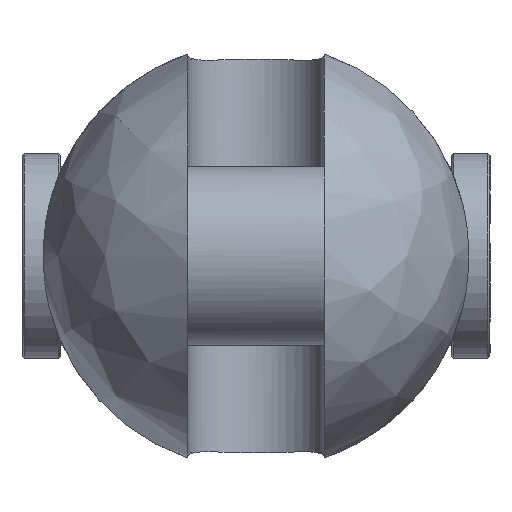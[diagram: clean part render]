
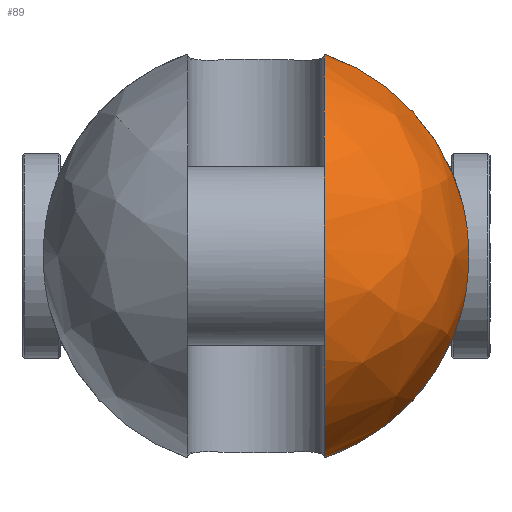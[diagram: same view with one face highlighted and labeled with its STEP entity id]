
A CAD part, left-side view. The second image highlights one B-rep face of the part: STEP entity #89.
In plain terms, the highlighted free-form (B-spline) face has degree [2, 2] with [9, 5] control points.
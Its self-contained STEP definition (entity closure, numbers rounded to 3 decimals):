
#89=ADVANCED_FACE('',(#164),#1306,.T.);
#164=FACE_OUTER_BOUND('',#249,.T.);
#249=EDGE_LOOP('',(#583,#584,#585,#586));
#583=ORIENTED_EDGE('',*,*,#811,.T.);
#584=ORIENTED_EDGE('',*,*,#835,.F.);
#585=ORIENTED_EDGE('',*,*,#847,.T.);
#586=ORIENTED_EDGE('',*,*,#827,.F.);
#811=EDGE_CURVE('',#1192,#1191,#1045,.T.);
#827=EDGE_CURVE('',#1192,#1204,#1055,.T.);
#835=EDGE_CURVE('',#1211,#1191,#1056,.T.);
#847=EDGE_CURVE('',#1211,#1204,#963,.T.);
#963=B_SPLINE_CURVE_WITH_KNOTS('',3,(#3144,#3145,#3146,#3147,#3148,#3149,
#3150,#3151,#3152,#3153,#3154,#3155,#3156,#3157),.UNSPECIFIED.,.F.,.F.,
(4,2,2,2,2,2,4),(0.,1.423,6.959,12.495,18.031,
23.567,24.99),.UNSPECIFIED.);
#1045=(
BOUNDED_CURVE()
B_SPLINE_CURVE(2,(#2920,#2921,#2922,#2923,#2924),.UNSPECIFIED.,.F.,.F.)
B_SPLINE_CURVE_WITH_KNOTS((3,2,3),(-148.82,-74.41,
0.),.UNSPECIFIED.)
CURVE()
GEOMETRIC_REPRESENTATION_ITEM()
RATIONAL_B_SPLINE_CURVE((1.,0.707,1.,0.707,1.))
REPRESENTATION_ITEM('')
);
#1055=(
BOUNDED_CURVE()
B_SPLINE_CURVE(2,(#3014,#3015,#3016),.UNSPECIFIED.,.F.,.F.)
B_SPLINE_CURVE_WITH_KNOTS((3,3),(0.,50.264),.UNSPECIFIED.)
CURVE()
GEOMETRIC_REPRESENTATION_ITEM()
RATIONAL_B_SPLINE_CURVE((1.,0.876,1.))
REPRESENTATION_ITEM('')
);
#1056=(
BOUNDED_CURVE()
B_SPLINE_CURVE(2,(#3071,#3072,#3073),.UNSPECIFIED.,.F.,.F.)
B_SPLINE_CURVE_WITH_KNOTS((3,3),(0.,50.264),.UNSPECIFIED.)
CURVE()
GEOMETRIC_REPRESENTATION_ITEM()
RATIONAL_B_SPLINE_CURVE((1.,0.876,1.))
REPRESENTATION_ITEM('')
);
#1191=VERTEX_POINT('',#2837);
#1192=VERTEX_POINT('',#2838);
#1204=VERTEX_POINT('',#2850);
#1211=VERTEX_POINT('',#2857);
#1306=(
BOUNDED_SURFACE()
B_SPLINE_SURFACE(2,2,((#2445,#2446,#2447,#2448,#2449),(#2450,#2451,#2452,
#2453,#2454),(#2455,#2456,#2457,#2458,#2459),(#2460,#2461,#2462,#2463,#2464),
(#2465,#2466,#2467,#2468,#2469),(#2470,#2471,#2472,#2473,#2474),(#2475,
#2476,#2477,#2478,#2479),(#2480,#2481,#2482,#2483,#2484),(#2485,#2486,#2487,
#2488,#2489)),.UNSPECIFIED.,.T.,.F.,.F.)
B_SPLINE_SURFACE_WITH_KNOTS((3,2,2,2,3),(3,2,3),(0.,78.54,157.08,
235.619,314.159),(0.,78.54,157.08),
 .UNSPECIFIED.)
GEOMETRIC_REPRESENTATION_ITEM()
RATIONAL_B_SPLINE_SURFACE(((1.,0.707,1.,0.707,1.),
(0.707,0.5,0.707,0.5,0.707),(1.,0.707,
1.,0.707,1.),(0.707,0.5,0.707,0.5,0.707),
(1.,0.707,1.,0.707,1.),(0.707,0.5,0.707,
0.5,0.707),(1.,0.707,1.,0.707,1.),(0.707,
0.5,0.707,0.5,0.707),(1.,0.707,1.,0.707,
1.)))
REPRESENTATION_ITEM('')
SURFACE()
);
#2445=CARTESIAN_POINT('',(-72.,0.,0.));
#2446=CARTESIAN_POINT('',(-72.,50.,0.));
#2447=CARTESIAN_POINT('',(-22.,50.,0.));
#2448=CARTESIAN_POINT('',(28.,50.,0.));
#2449=CARTESIAN_POINT('',(28.,0.,0.));
#2450=CARTESIAN_POINT('',(-72.,0.,0.));
#2451=CARTESIAN_POINT('',(-72.,50.,50.));
#2452=CARTESIAN_POINT('',(-22.,50.,50.));
#2453=CARTESIAN_POINT('',(28.,50.,50.));
#2454=CARTESIAN_POINT('',(28.,0.,0.));
#2455=CARTESIAN_POINT('',(-72.,0.,0.));
#2456=CARTESIAN_POINT('',(-72.,0.,50.));
#2457=CARTESIAN_POINT('',(-22.,0.,50.));
#2458=CARTESIAN_POINT('',(28.,0.,50.));
#2459=CARTESIAN_POINT('',(28.,0.,0.));
#2460=CARTESIAN_POINT('',(-72.,0.,0.));
#2461=CARTESIAN_POINT('',(-72.,-50.,50.));
#2462=CARTESIAN_POINT('',(-22.,-50.,50.));
#2463=CARTESIAN_POINT('',(28.,-50.,50.));
#2464=CARTESIAN_POINT('',(28.,0.,0.));
#2465=CARTESIAN_POINT('',(-72.,0.,0.));
#2466=CARTESIAN_POINT('',(-72.,-50.,0.));
#2467=CARTESIAN_POINT('',(-22.,-50.,0.));
#2468=CARTESIAN_POINT('',(28.,-50.,0.));
#2469=CARTESIAN_POINT('',(28.,0.,0.));
#2470=CARTESIAN_POINT('',(-72.,0.,0.));
#2471=CARTESIAN_POINT('',(-72.,-50.,-50.));
#2472=CARTESIAN_POINT('',(-22.,-50.,-50.));
#2473=CARTESIAN_POINT('',(28.,-50.,-50.));
#2474=CARTESIAN_POINT('',(28.,0.,0.));
#2475=CARTESIAN_POINT('',(-72.,0.,0.));
#2476=CARTESIAN_POINT('',(-72.,0.,-50.));
#2477=CARTESIAN_POINT('',(-22.,0.,-50.));
#2478=CARTESIAN_POINT('',(28.,0.,-50.));
#2479=CARTESIAN_POINT('',(28.,0.,0.));
#2480=CARTESIAN_POINT('',(-72.,0.,0.));
#2481=CARTESIAN_POINT('',(-72.,50.,-50.));
#2482=CARTESIAN_POINT('',(-22.,50.,-50.));
#2483=CARTESIAN_POINT('',(28.,50.,-50.));
#2484=CARTESIAN_POINT('',(28.,0.,0.));
#2485=CARTESIAN_POINT('',(-72.,0.,0.));
#2486=CARTESIAN_POINT('',(-72.,50.,0.));
#2487=CARTESIAN_POINT('',(-22.,50.,0.));
#2488=CARTESIAN_POINT('',(28.,50.,0.));
#2489=CARTESIAN_POINT('',(28.,0.,0.));
#2837=CARTESIAN_POINT('',(-22.,-16.,-47.371));
#2838=CARTESIAN_POINT('',(-22.,-16.,47.371));
#2850=CARTESIAN_POINT('',(-22.,-48.57,11.874));
#2857=CARTESIAN_POINT('',(-22.,-48.57,-11.874));
#2920=CARTESIAN_POINT('',(-22.,-16.,47.371));
#2921=CARTESIAN_POINT('',(-69.371,-16.,47.371));
#2922=CARTESIAN_POINT('',(-69.371,-16.,0.));
#2923=CARTESIAN_POINT('',(-69.371,-16.,-47.371));
#2924=CARTESIAN_POINT('',(-22.,-16.,-47.371));
#3014=CARTESIAN_POINT('',(-22.,-16.,47.371));
#3015=CARTESIAN_POINT('',(-22.,-42.042,38.575));
#3016=CARTESIAN_POINT('',(-22.,-48.57,11.874));
#3071=CARTESIAN_POINT('',(-22.,-48.57,-11.874));
#3072=CARTESIAN_POINT('',(-22.,-42.042,-38.575));
#3073=CARTESIAN_POINT('',(-22.,-16.,-47.371));
#3144=CARTESIAN_POINT('',(-22.,-48.57,-11.874));
#3145=CARTESIAN_POINT('',(-22.223,-48.671,-11.461));
#3146=CARTESIAN_POINT('',(-22.435,-48.766,-11.041));
#3147=CARTESIAN_POINT('',(-23.414,-49.207,-8.953));
#3148=CARTESIAN_POINT('',(-24.013,-49.473,-7.192));
#3149=CARTESIAN_POINT('',(-24.807,-49.825,-3.606));
#3150=CARTESIAN_POINT('',(-25.,-49.91,-1.781));
#3151=CARTESIAN_POINT('',(-25.,-49.91,1.781));
#3152=CARTESIAN_POINT('',(-24.807,-49.825,3.606));
#3153=CARTESIAN_POINT('',(-24.013,-49.473,7.192));
#3154=CARTESIAN_POINT('',(-23.414,-49.207,8.953));
#3155=CARTESIAN_POINT('',(-22.435,-48.766,11.041));
#3156=CARTESIAN_POINT('',(-22.223,-48.671,11.461));
#3157=CARTESIAN_POINT('',(-22.,-48.57,11.874));
